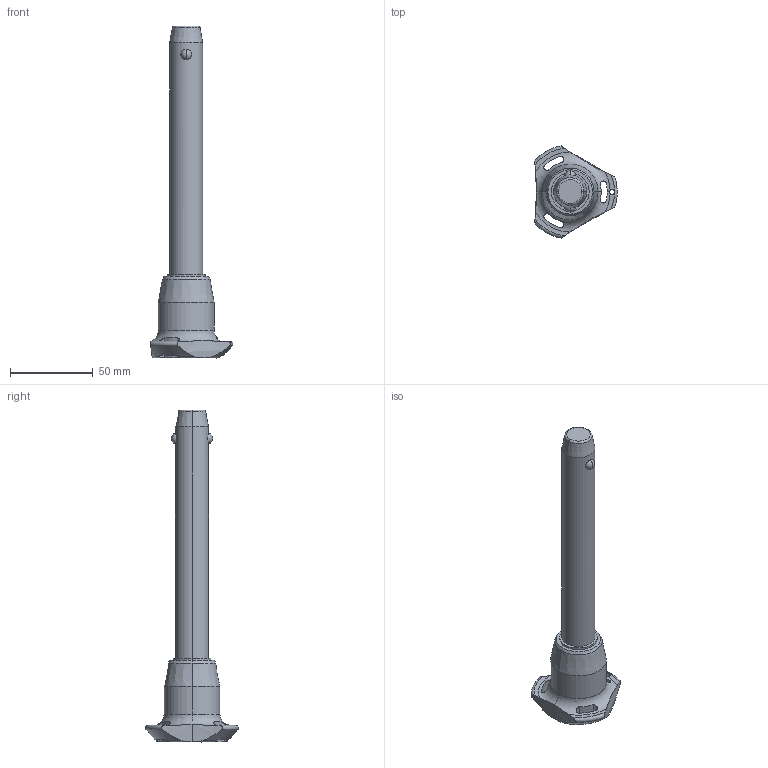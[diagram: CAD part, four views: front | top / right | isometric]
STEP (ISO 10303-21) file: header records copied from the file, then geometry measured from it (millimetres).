
FILE_DESCRIPTION (( 'STEP AP203' ), '1' );
FILE_NAME ('QR1734.M20-130-S.step', '2025-11-12T14:42:47', ( '' ), ( '' ), 'SwSTEP 2.0', 'SolidWorks 2019', '' );
FILE_SCHEMA (( 'CONFIG_CONTROL_DESIGN' ));
Length unit declared in the file: millimetre
Products named in the file (1): QR1734.M20-130-S
Bounding box: 50.05 x 56.02 x 201.2 mm (x, y, z)
Volume: 94617.7 mm3; surface area: 19135.4 mm2
Topology: 1 solids, 1 shells, 65 faces, 176 edges, 111 vertices
Faces by surface type: cylinder 30, cone 14, torus 11, sphere 6, plane 4
Entity records: 2858 total; most frequent: CARTESIAN_POINT 1179, ORIENTED_EDGE 352, DIRECTION 329, EDGE_CURVE 176, AXIS2_PLACEMENT_3D 147, VERTEX_POINT 111, CIRCLE 81, EDGE_LOOP 71
